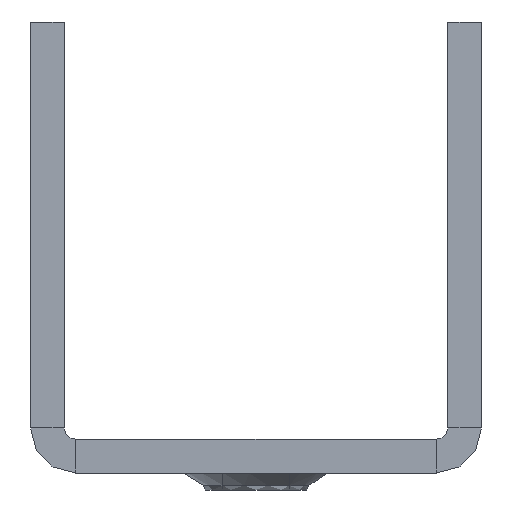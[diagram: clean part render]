
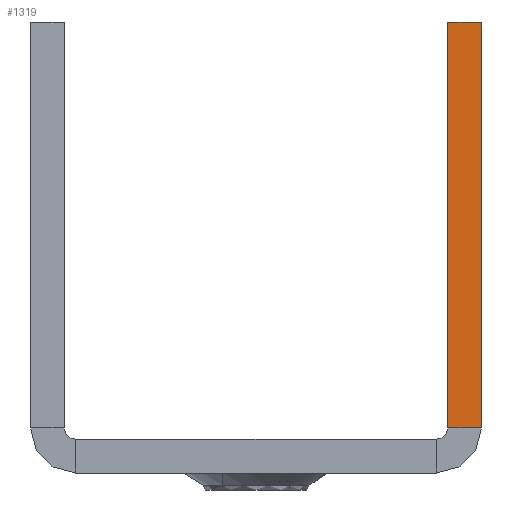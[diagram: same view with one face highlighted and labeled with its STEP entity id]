
A CAD part, front view. The second image highlights one B-rep face of the part: STEP entity #1319.
In plain terms, the highlighted planar face has unit normal (0, -1, 0).
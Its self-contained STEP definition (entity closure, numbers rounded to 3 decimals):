
#351=FACE_OUTER_BOUND('',#546,.T.);
#546=EDGE_LOOP('',(#1130,#1131,#1132,#1133));
#588=LINE('',#2261,#636);
#590=LINE('',#2264,#638);
#593=LINE('',#2272,#641);
#594=LINE('',#2273,#642);
#636=VECTOR('',#1891,36.);
#638=VECTOR('',#1895,3.);
#641=VECTOR('',#1906,36.);
#642=VECTOR('',#1907,3.);
#758=VERTEX_POINT('',#2244);
#763=VERTEX_POINT('',#2258);
#764=VERTEX_POINT('',#2260);
#765=VERTEX_POINT('',#2271);
#886=EDGE_CURVE('',#764,#763,#588,.T.);
#888=EDGE_CURVE('',#763,#758,#590,.T.);
#893=EDGE_CURVE('',#758,#765,#593,.T.);
#894=EDGE_CURVE('',#764,#765,#594,.T.);
#1130=ORIENTED_EDGE('',*,*,#888,.T.);
#1131=ORIENTED_EDGE('',*,*,#893,.T.);
#1132=ORIENTED_EDGE('',*,*,#894,.F.);
#1133=ORIENTED_EDGE('',*,*,#886,.T.);
#1217=PLANE('',#1508);
#1319=ADVANCED_FACE('',(#351),#1217,.T.);
#1508=AXIS2_PLACEMENT_3D('',#2270,#1904,#1905);
#1891=DIRECTION('',(0.,0.,-1.));
#1895=DIRECTION('',(1.,0.,0.));
#1904=DIRECTION('center_axis',(0.,-1.,0.));
#1905=DIRECTION('ref_axis',(1.,0.,0.));
#1906=DIRECTION('',(0.,0.,1.));
#1907=DIRECTION('',(1.,0.,0.));
#2244=CARTESIAN_POINT('',(20.,-6000.,4.));
#2258=CARTESIAN_POINT('',(17.,-6000.,4.));
#2260=CARTESIAN_POINT('',(17.,-6000.,40.));
#2261=CARTESIAN_POINT('',(17.,-6000.,-3.288));
#2264=CARTESIAN_POINT('',(17.66,-6000.,4.));
#2270=CARTESIAN_POINT('Origin',(17.,-6000.,4.));
#2271=CARTESIAN_POINT('',(20.,-6000.,40.));
#2272=CARTESIAN_POINT('',(20.,-6000.,4.));
#2273=CARTESIAN_POINT('',(17.,-6000.,40.));
